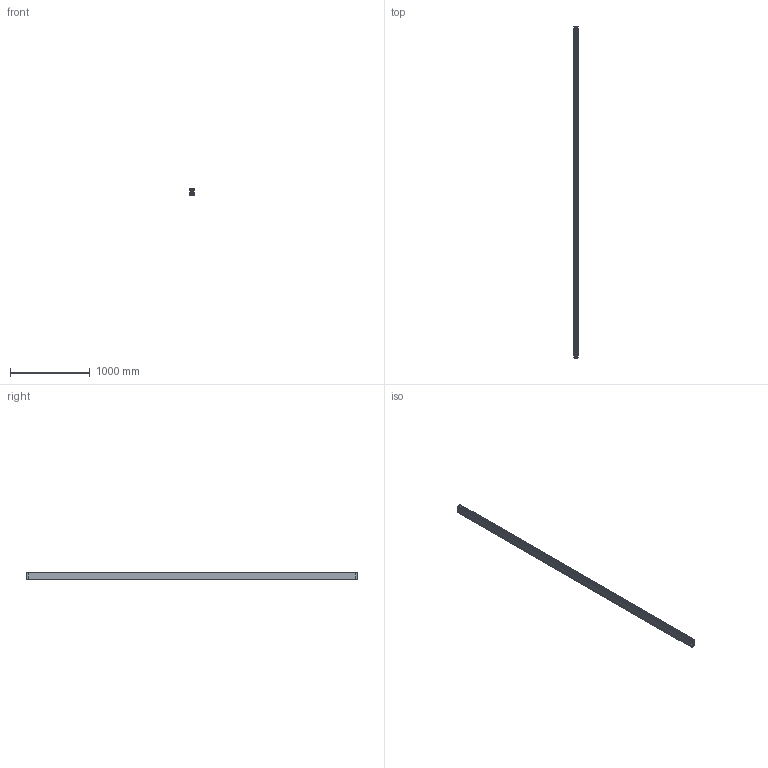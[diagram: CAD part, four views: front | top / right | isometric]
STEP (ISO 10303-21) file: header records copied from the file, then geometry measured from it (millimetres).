
FILE_DESCRIPTION (( 'STEP AP214' ), '1' );
FILE_NAME ('1001778.STEP', '2025-10-06T08:48:11', ( '' ), ( '' ), 'SwSTEP 2.0', 'SolidWorks 2025', '' );
FILE_SCHEMA (( 'AUTOMOTIVE_DESIGN' ));
Length unit declared in the file: millimetre
Products named in the file (1): 1001778
Bounding box: 60 x 4154.8 x 90 mm (x, y, z)
Volume: 8180912.5 mm3; surface area: 2752501.6 mm2
Topology: 9 solids, 9 shells, 489 faces, 1391 edges, 920 vertices
Faces by surface type: plane 303, cylinder 178, bspline 8
Entity records: 16408 total; most frequent: CARTESIAN_POINT 3419, ORIENTED_EDGE 2782, DIRECTION 2625, EDGE_CURVE 1391, LINE 1009, VECTOR 1009, VERTEX_POINT 920, AXIS2_PLACEMENT_3D 808
